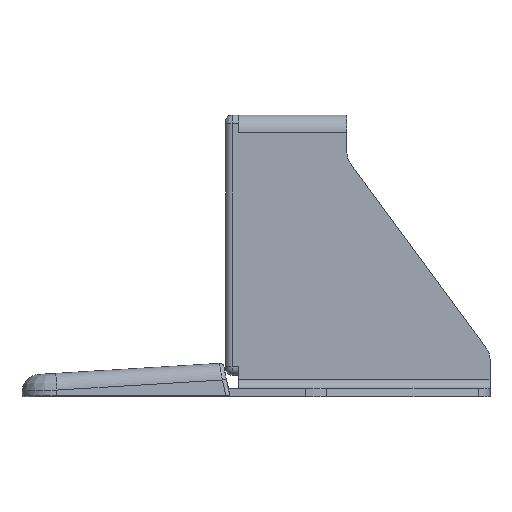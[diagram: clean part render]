
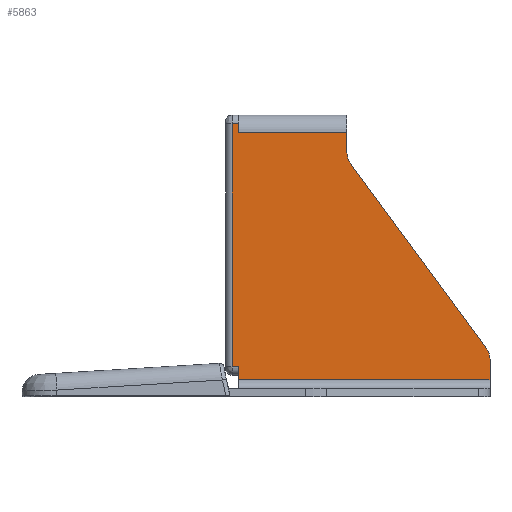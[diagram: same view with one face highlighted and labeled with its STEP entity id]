
A CAD part, left-side view. The second image highlights one B-rep face of the part: STEP entity #5863.
In plain terms, the highlighted planar face has unit normal (-1, 0, 0).
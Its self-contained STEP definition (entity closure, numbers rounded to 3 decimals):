
#356=DIRECTION('',(0.,-1.,0.));
#357=VECTOR('',#356,25.);
#358=CARTESIAN_POINT('',(-10.,25.,-2.));
#359=LINE('',#358,#357);
#360=DIRECTION('',(0.,0.,-1.));
#361=VECTOR('',#360,2.);
#362=CARTESIAN_POINT('',(-10.,25.,0.));
#363=LINE('',#362,#361);
#373=DIRECTION('',(0.,0.,1.));
#374=VECTOR('',#373,3.);
#375=CARTESIAN_POINT('',(-10.,25.,-59.));
#376=LINE('',#375,#374);
#377=DIRECTION('',(0.,1.,0.));
#378=VECTOR('',#377,1.5);
#379=CARTESIAN_POINT('',(-10.,25.,-56.));
#380=LINE('',#379,#378);
#381=DIRECTION('',(0.,0.,1.));
#382=VECTOR('',#381,56.);
#383=CARTESIAN_POINT('',(-10.,26.5,-56.));
#384=LINE('',#383,#382);
#385=DIRECTION('',(0.,1.,0.));
#386=VECTOR('',#385,1.5);
#387=CARTESIAN_POINT('',(-10.,25.,0.));
#388=LINE('',#387,#386);
#389=DIRECTION('',(0.,0.,-1.));
#390=VECTOR('',#389,4.691);
#391=CARTESIAN_POINT('',(-10.,0.,-2.));
#392=LINE('',#391,#390);
#393=DIRECTION('',(0.,-0.591,-0.806));
#394=VECTOR('',#393,53.184);
#395=CARTESIAN_POINT('',(-10.,-0.774,-9.056));
#396=LINE('',#395,#394);
#397=CARTESIAN_POINT('',(-10.,-29.,-54.309));
#398=DIRECTION('',(-1.,0.,0.));
#399=DIRECTION('',(0.,-1.,0.));
#400=AXIS2_PLACEMENT_3D('',#397,#398,#399);
#402=DIRECTION('',(0.,0.,-1.));
#403=VECTOR('',#402,4.691);
#404=CARTESIAN_POINT('',(-10.,-33.,-54.309));
#405=LINE('',#404,#403);
#2728=DIRECTION('',(0.,1.,0.));
#2729=VECTOR('',#2728,58.);
#2730=CARTESIAN_POINT('',(-10.,-33.,-59.));
#2731=LINE('',#2730,#2729);
#2777=CARTESIAN_POINT('',(-10.,-4.,-6.691));
#2778=DIRECTION('',(1.,0.,0.));
#2779=DIRECTION('',(0.,0.806,-0.591));
#2780=AXIS2_PLACEMENT_3D('',#2777,#2778,#2779);
#4717=CARTESIAN_POINT('',(-10.,0.,-2.));
#4719=VERTEX_POINT('',#4717);
#4732=CARTESIAN_POINT('',(-10.,-33.,-59.));
#4734=VERTEX_POINT('',#4732);
#4735=CARTESIAN_POINT('',(-10.,25.,-59.));
#4736=VERTEX_POINT('',#4735);
#4837=CARTESIAN_POINT('',(-10.,-0.774,-9.056));
#4839=VERTEX_POINT('',#4837);
#4841=CARTESIAN_POINT('',(-10.,0.,-6.691));
#4843=VERTEX_POINT('',#4841);
#4861=CARTESIAN_POINT('',(-10.,-33.,-54.309));
#4862=CARTESIAN_POINT('',(-10.,-32.226,-51.944));
#4863=VERTEX_POINT('',#4861);
#4864=VERTEX_POINT('',#4862);
#4930=CARTESIAN_POINT('',(-10.,25.,0.));
#4932=VERTEX_POINT('',#4930);
#4933=CARTESIAN_POINT('',(-10.,26.5,0.));
#4935=VERTEX_POINT('',#4933);
#4959=CARTESIAN_POINT('',(-10.,26.5,-56.));
#4960=VERTEX_POINT('',#4959);
#5269=CARTESIAN_POINT('',(-10.,25.,-2.));
#5271=VERTEX_POINT('',#5269);
#5281=CARTESIAN_POINT('',(-10.,25.,-56.));
#5282=VERTEX_POINT('',#5281);
#5834=CARTESIAN_POINT('',(-10.,5.94,2.));
#5835=DIRECTION('',(1.,0.,0.));
#5836=DIRECTION('',(0.,-1.,0.));
#5837=AXIS2_PLACEMENT_3D('',#5834,#5835,#5836);
#5838=PLANE('',#5837);
#5840=ORIENTED_EDGE('',*,*,#5839,.T.);
#5842=ORIENTED_EDGE('',*,*,#5841,.T.);
#5844=ORIENTED_EDGE('',*,*,#5843,.T.);
#5846=ORIENTED_EDGE('',*,*,#5845,.F.);
#5847=ORIENTED_EDGE('',*,*,#5826,.T.);
#5848=ORIENTED_EDGE('',*,*,#5815,.T.);
#5850=ORIENTED_EDGE('',*,*,#5849,.T.);
#5852=ORIENTED_EDGE('',*,*,#5851,.F.);
#5854=ORIENTED_EDGE('',*,*,#5853,.T.);
#5856=ORIENTED_EDGE('',*,*,#5855,.F.);
#5858=ORIENTED_EDGE('',*,*,#5857,.T.);
#5860=ORIENTED_EDGE('',*,*,#5859,.T.);
#5861=EDGE_LOOP('',(#5840,#5842,#5844,#5846,#5847,#5848,#5850,#5852,#5854,#5856,
#5858,#5860));
#5862=FACE_OUTER_BOUND('',#5861,.F.);
#401=CIRCLE('',#400,4.);
#2781=CIRCLE('',#2780,4.);
#5815=EDGE_CURVE('',#5271,#4719,#359,.T.);
#5826=EDGE_CURVE('',#4932,#5271,#363,.T.);
#5839=EDGE_CURVE('',#4736,#5282,#376,.T.);
#5841=EDGE_CURVE('',#5282,#4960,#380,.T.);
#5843=EDGE_CURVE('',#4960,#4935,#384,.T.);
#5845=EDGE_CURVE('',#4932,#4935,#388,.T.);
#5849=EDGE_CURVE('',#4719,#4843,#392,.T.);
#5851=EDGE_CURVE('',#4839,#4843,#2781,.T.);
#5853=EDGE_CURVE('',#4839,#4864,#396,.T.);
#5855=EDGE_CURVE('',#4863,#4864,#401,.T.);
#5857=EDGE_CURVE('',#4863,#4734,#405,.T.);
#5859=EDGE_CURVE('',#4734,#4736,#2731,.T.);
#5863=ADVANCED_FACE('',(#5862),#5838,.F.);
